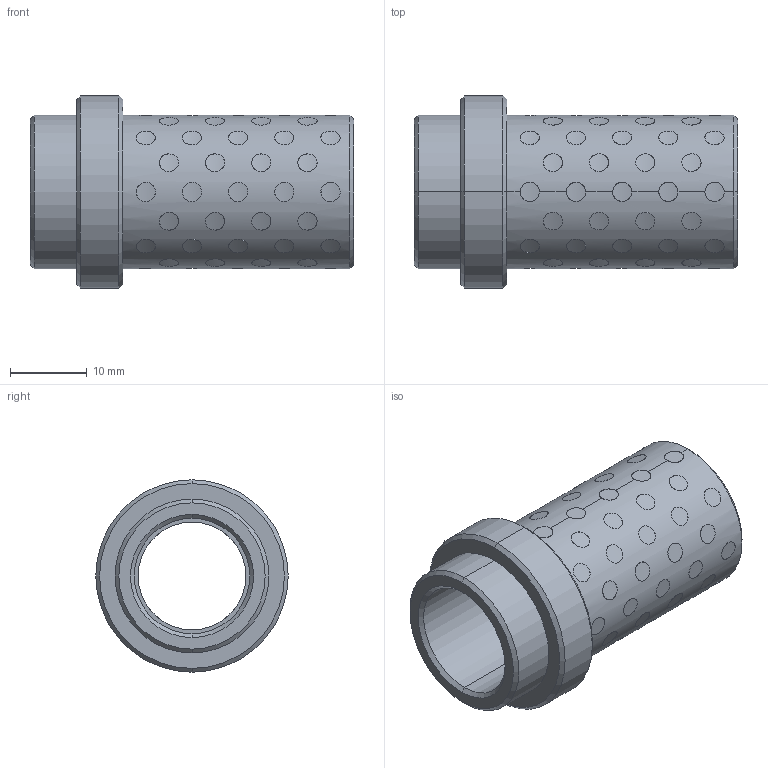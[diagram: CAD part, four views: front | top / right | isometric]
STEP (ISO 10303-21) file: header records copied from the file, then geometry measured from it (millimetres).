
FILE_DESCRIPTION((''),'2;1');
FILE_NAME('G31214036','2017-12-30T',('MANU'),(''),'PRO/ENGINEER BY PARAMETRIC TECHNOLOGY CORPORATION, 2012130','PRO/ENGINEER BY PARAMETRIC TECHNOLOGY CORPORATION, 2012130','');
FILE_SCHEMA(('CONFIG_CONTROL_DESIGN'));
Length unit declared in the file: millimetre
Products named in the file (1): G31214036
Bounding box: 42 x 25 x 25 mm (x, y, z)
Volume: 7457 mm3; surface area: 8575.1 mm2
Topology: 73 solids, 73 shells, 459 faces, 978 edges, 648 vertices
Faces by surface type: cylinder 442, cone 12, plane 5
Entity records: 20594 total; most frequent: CARTESIAN_POINT 11617, ORIENTED_EDGE 1956, DIRECTION 1312, EDGE_CURVE 978, VERTEX_POINT 648, B_SPLINE_CURVE_WITH_KNOTS 616, EDGE_LOOP 588, AXIS2_PLACEMENT_3D 491
